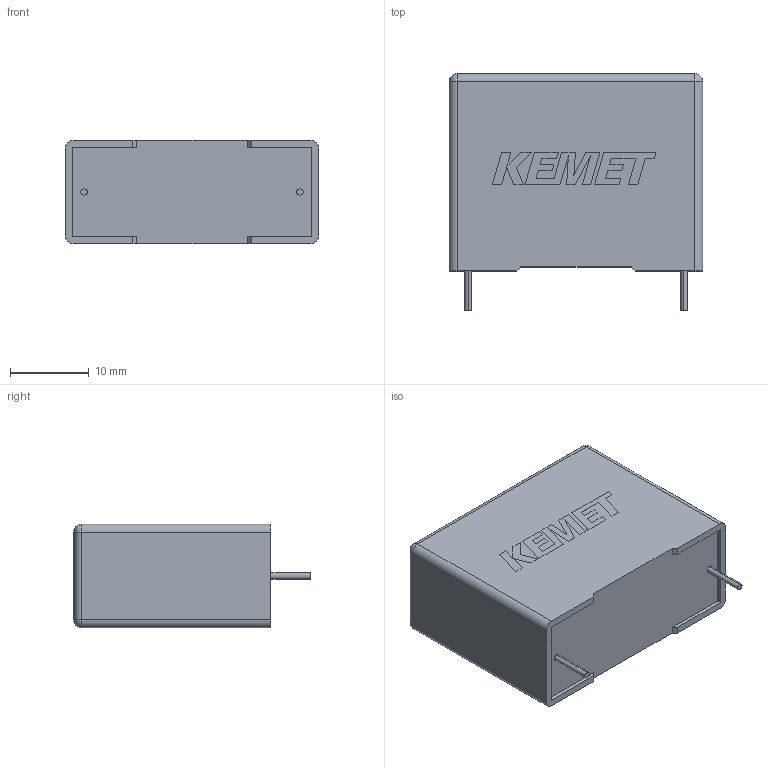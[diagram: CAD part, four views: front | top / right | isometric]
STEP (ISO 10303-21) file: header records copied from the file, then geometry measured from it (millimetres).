
FILE_DESCRIPTION (( 'STEP AP214' ), '1' );
FILE_NAME ('CFRBox32.3x25.1x13.2_L32.3H25.1T13.2S27.5F0.8.STEP', '2016-06-28T15:28:08', ( '' ), ( '' ), 'SwSTEP 2.0', 'SolidWorks 2014', '' );
FILE_SCHEMA (( 'AUTOMOTIVE_DESIGN' ));
Length unit declared in the file: millimetre
Products named in the file (1): CFRBox32.3x25.1x13.2_L32.3H25.1T13.2S27.5F0.8
Bounding box: 32.3 x 30.1 x 13.2 mm (x, y, z)
Volume: 10479.8 mm3; surface area: 3196 mm2
Topology: 4 solids, 4 shells, 93 faces, 241 edges, 154 vertices
Faces by surface type: plane 77, cylinder 12, sphere 4
Entity records: 3447 total; most frequent: CARTESIAN_POINT 485, ORIENTED_EDGE 474, DIRECTION 449, EDGE_CURVE 237, LINE 213, VECTOR 213, VERTEX_POINT 154, AXIS2_PLACEMENT_3D 118
